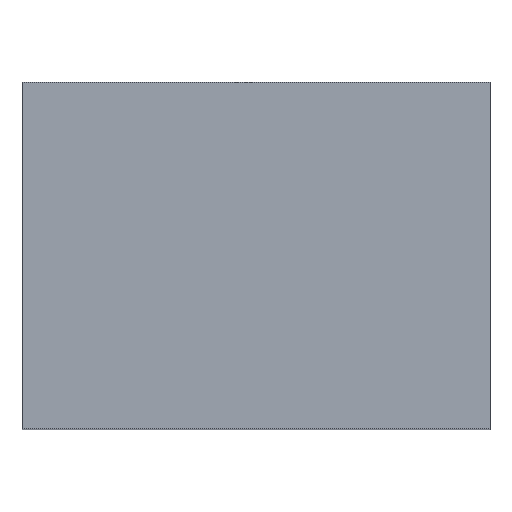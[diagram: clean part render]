
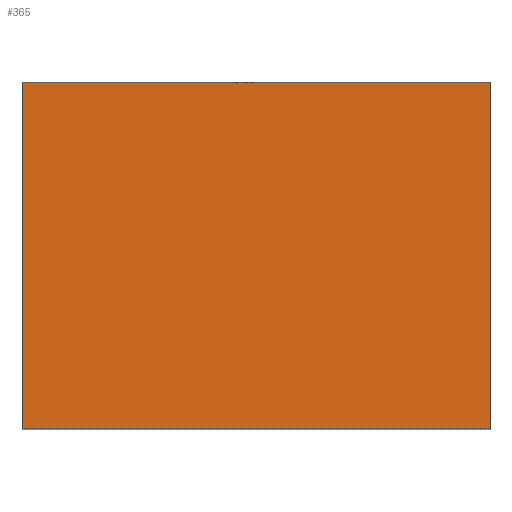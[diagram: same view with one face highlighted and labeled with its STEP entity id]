
A CAD part, top view. The second image highlights one B-rep face of the part: STEP entity #365.
In plain terms, the highlighted planar face has unit normal (0, 0, 1).
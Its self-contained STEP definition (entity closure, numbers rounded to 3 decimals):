
#51 = VERTEX_POINT('',#52);
#52 = CARTESIAN_POINT('',(-17.4,-12.32,19.05));
#59 = PLANE('',#60);
#60 = AXIS2_PLACEMENT_3D('',#61,#62,#63);
#61 = CARTESIAN_POINT('',(-17.4,-12.32,0.));
#62 = DIRECTION('',(0.,1.,0.));
#63 = DIRECTION('',(1.,0.,0.));
#71 = PLANE('',#72);
#72 = AXIS2_PLACEMENT_3D('',#73,#74,#75);
#73 = CARTESIAN_POINT('',(-17.4,2.16,0.));
#74 = DIRECTION('',(1.,0.,-0.));
#75 = DIRECTION('',(0.,-1.,0.));
#83 = EDGE_CURVE('',#51,#84,#86,.T.);
#84 = VERTEX_POINT('',#85);
#85 = CARTESIAN_POINT('',(2.16,-12.32,19.05));
#86 = SURFACE_CURVE('',#87,(#91,#98),.PCURVE_S1.);
#87 = LINE('',#88,#89);
#88 = CARTESIAN_POINT('',(-17.4,-12.32,19.05));
#89 = VECTOR('',#90,1.);
#90 = DIRECTION('',(1.,0.,0.));
#91 = PCURVE('',#59,#92);
#92 = DEFINITIONAL_REPRESENTATION('',(#93),#97);
#93 = LINE('',#94,#95);
#94 = CARTESIAN_POINT('',(0.,-19.05));
#95 = VECTOR('',#96,1.);
#96 = DIRECTION('',(1.,0.));
#97 = ( GEOMETRIC_REPRESENTATION_CONTEXT(2) 
PARAMETRIC_REPRESENTATION_CONTEXT() REPRESENTATION_CONTEXT('2D SPACE',''
  ) );
#98 = PCURVE('',#99,#104);
#99 = PLANE('',#100);
#100 = AXIS2_PLACEMENT_3D('',#101,#102,#103);
#101 = CARTESIAN_POINT('',(-7.62,-5.08,19.05));
#102 = DIRECTION('',(0.,0.,1.));
#103 = DIRECTION('',(1.,0.,0.));
#104 = DEFINITIONAL_REPRESENTATION('',(#105),#109);
#105 = LINE('',#106,#107);
#106 = CARTESIAN_POINT('',(-9.78,-7.24));
#107 = VECTOR('',#108,1.);
#108 = DIRECTION('',(1.,0.));
#109 = ( GEOMETRIC_REPRESENTATION_CONTEXT(2) 
PARAMETRIC_REPRESENTATION_CONTEXT() REPRESENTATION_CONTEXT('2D SPACE',''
  ) );
#127 = PLANE('',#128);
#128 = AXIS2_PLACEMENT_3D('',#129,#130,#131);
#129 = CARTESIAN_POINT('',(2.16,-12.32,0.));
#130 = DIRECTION('',(-1.,0.,0.));
#131 = DIRECTION('',(0.,1.,0.));
#169 = EDGE_CURVE('',#84,#170,#172,.T.);
#170 = VERTEX_POINT('',#171);
#171 = CARTESIAN_POINT('',(2.16,2.16,19.05));
#172 = SURFACE_CURVE('',#173,(#177,#184),.PCURVE_S1.);
#173 = LINE('',#174,#175);
#174 = CARTESIAN_POINT('',(2.16,-12.32,19.05));
#175 = VECTOR('',#176,1.);
#176 = DIRECTION('',(0.,1.,0.));
#177 = PCURVE('',#127,#178);
#178 = DEFINITIONAL_REPRESENTATION('',(#179),#183);
#179 = LINE('',#180,#181);
#180 = CARTESIAN_POINT('',(0.,-19.05));
#181 = VECTOR('',#182,1.);
#182 = DIRECTION('',(1.,0.));
#183 = ( GEOMETRIC_REPRESENTATION_CONTEXT(2) 
PARAMETRIC_REPRESENTATION_CONTEXT() REPRESENTATION_CONTEXT('2D SPACE',''
  ) );
#184 = PCURVE('',#99,#185);
#185 = DEFINITIONAL_REPRESENTATION('',(#186),#190);
#186 = LINE('',#187,#188);
#187 = CARTESIAN_POINT('',(9.78,-7.24));
#188 = VECTOR('',#189,1.);
#189 = DIRECTION('',(0.,1.));
#190 = ( GEOMETRIC_REPRESENTATION_CONTEXT(2) 
PARAMETRIC_REPRESENTATION_CONTEXT() REPRESENTATION_CONTEXT('2D SPACE',''
  ) );
#208 = PLANE('',#209);
#209 = AXIS2_PLACEMENT_3D('',#210,#211,#212);
#210 = CARTESIAN_POINT('',(2.16,2.16,0.));
#211 = DIRECTION('',(0.,-1.,0.));
#212 = DIRECTION('',(-1.,0.,0.));
#245 = EDGE_CURVE('',#170,#246,#248,.T.);
#246 = VERTEX_POINT('',#247);
#247 = CARTESIAN_POINT('',(-17.4,2.16,19.05));
#248 = SURFACE_CURVE('',#249,(#253,#260),.PCURVE_S1.);
#249 = LINE('',#250,#251);
#250 = CARTESIAN_POINT('',(2.16,2.16,19.05));
#251 = VECTOR('',#252,1.);
#252 = DIRECTION('',(-1.,0.,0.));
#253 = PCURVE('',#208,#254);
#254 = DEFINITIONAL_REPRESENTATION('',(#255),#259);
#255 = LINE('',#256,#257);
#256 = CARTESIAN_POINT('',(0.,-19.05));
#257 = VECTOR('',#258,1.);
#258 = DIRECTION('',(1.,0.));
#259 = ( GEOMETRIC_REPRESENTATION_CONTEXT(2) 
PARAMETRIC_REPRESENTATION_CONTEXT() REPRESENTATION_CONTEXT('2D SPACE',''
  ) );
#260 = PCURVE('',#99,#261);
#261 = DEFINITIONAL_REPRESENTATION('',(#262),#266);
#262 = LINE('',#263,#264);
#263 = CARTESIAN_POINT('',(9.78,7.24));
#264 = VECTOR('',#265,1.);
#265 = DIRECTION('',(-1.,0.));
#266 = ( GEOMETRIC_REPRESENTATION_CONTEXT(2) 
PARAMETRIC_REPRESENTATION_CONTEXT() REPRESENTATION_CONTEXT('2D SPACE',''
  ) );
#316 = EDGE_CURVE('',#246,#51,#317,.T.);
#317 = SURFACE_CURVE('',#318,(#322,#329),.PCURVE_S1.);
#318 = LINE('',#319,#320);
#319 = CARTESIAN_POINT('',(-17.4,2.16,19.05));
#320 = VECTOR('',#321,1.);
#321 = DIRECTION('',(0.,-1.,0.));
#322 = PCURVE('',#71,#323);
#323 = DEFINITIONAL_REPRESENTATION('',(#324),#328);
#324 = LINE('',#325,#326);
#325 = CARTESIAN_POINT('',(0.,-19.05));
#326 = VECTOR('',#327,1.);
#327 = DIRECTION('',(1.,0.));
#328 = ( GEOMETRIC_REPRESENTATION_CONTEXT(2) 
PARAMETRIC_REPRESENTATION_CONTEXT() REPRESENTATION_CONTEXT('2D SPACE',''
  ) );
#329 = PCURVE('',#99,#330);
#330 = DEFINITIONAL_REPRESENTATION('',(#331),#335);
#331 = LINE('',#332,#333);
#332 = CARTESIAN_POINT('',(-9.78,7.24));
#333 = VECTOR('',#334,1.);
#334 = DIRECTION('',(0.,-1.));
#335 = ( GEOMETRIC_REPRESENTATION_CONTEXT(2) 
PARAMETRIC_REPRESENTATION_CONTEXT() REPRESENTATION_CONTEXT('2D SPACE',''
  ) );
#365 = ADVANCED_FACE('',(#366),#99,.T.);
#366 = FACE_BOUND('',#367,.T.);
#367 = EDGE_LOOP('',(#368,#369,#370,#371));
#368 = ORIENTED_EDGE('',*,*,#83,.T.);
#369 = ORIENTED_EDGE('',*,*,#169,.T.);
#370 = ORIENTED_EDGE('',*,*,#245,.T.);
#371 = ORIENTED_EDGE('',*,*,#316,.T.);
